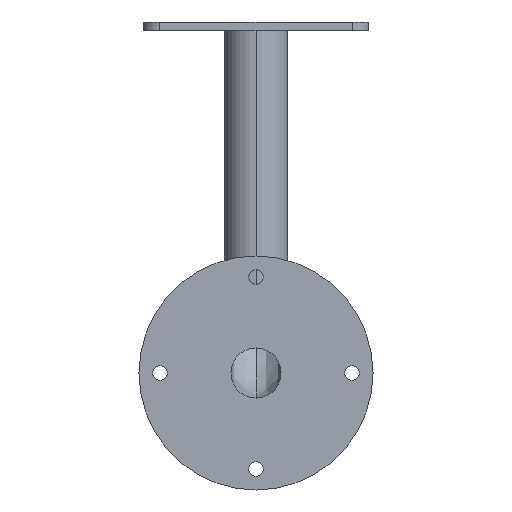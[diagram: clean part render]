
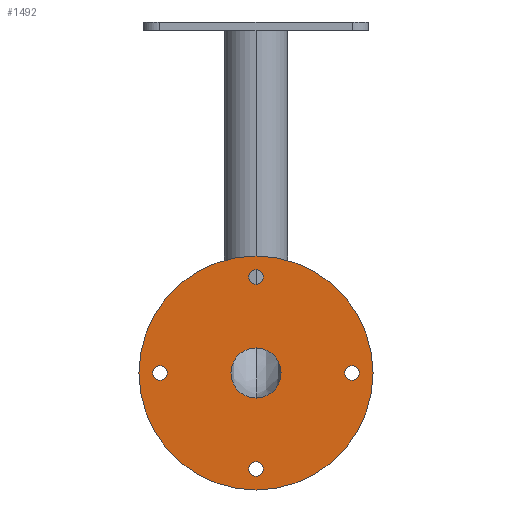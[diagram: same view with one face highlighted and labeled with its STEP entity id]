
A CAD part, front view. The second image highlights one B-rep face of the part: STEP entity #1492.
In plain terms, the highlighted planar face has unit normal (0, -1, 0).
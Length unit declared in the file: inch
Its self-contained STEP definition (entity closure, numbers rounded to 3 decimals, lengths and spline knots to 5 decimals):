
#11 = CIRCLE ( 'NONE', #1264, 0.219 ) ;
#42 = EDGE_LOOP ( 'NONE', ( #1465, #480 ) ) ;
#50 = EDGE_LOOP ( 'NONE', ( #288, #169 ) ) ;
#78 = CARTESIAN_POINT ( 'NONE',  ( -2.875, 0., 0.219 ) ) ;
#90 = EDGE_CURVE ( 'NONE', #565, #473, #1238, .T. ) ;
#97 = AXIS2_PLACEMENT_3D ( 'NONE', #926, #685, #819 ) ;
#103 = CARTESIAN_POINT ( 'NONE',  ( 2.875, 0., 0.219 ) ) ;
#110 = VERTEX_POINT ( 'NONE', #1020 ) ;
#117 = AXIS2_PLACEMENT_3D ( 'NONE', #1487, #120, #981 ) ;
#120 = DIRECTION ( 'NONE',  ( 0., 1., 0. ) ) ;
#160 = FACE_OUTER_BOUND ( 'NONE', #50, .T. ) ;
#164 = EDGE_LOOP ( 'NONE', ( #1598, #1241 ) ) ;
#169 = ORIENTED_EDGE ( 'NONE', *, *, #578, .F. ) ;
#198 = VERTEX_POINT ( 'NONE', #1280 ) ;
#234 = EDGE_CURVE ( 'NONE', #473, #565, #1033, .T. ) ;
#246 = DIRECTION ( 'NONE',  ( 0., 1., 0. ) ) ;
#256 = CIRCLE ( 'NONE', #1406, 0.219 ) ;
#259 = DIRECTION ( 'NONE',  ( 0., -1., 0. ) ) ;
#286 = DIRECTION ( 'NONE',  ( 0., 0., 1. ) ) ;
#288 = ORIENTED_EDGE ( 'NONE', *, *, #1610, .F. ) ;
#297 = AXIS2_PLACEMENT_3D ( 'NONE', #1489, #860, #871 ) ;
#306 = EDGE_CURVE ( 'NONE', #198, #543, #256, .T. ) ;
#317 = CARTESIAN_POINT ( 'NONE',  ( 2.875, 0., 0. ) ) ;
#318 = ORIENTED_EDGE ( 'NONE', *, *, #326, .F. ) ;
#326 = EDGE_CURVE ( 'NONE', #769, #1177, #1327, .T. ) ;
#368 = CIRCLE ( 'NONE', #750, 0.219 ) ;
#370 = CARTESIAN_POINT ( 'NONE',  ( -2.875, 0., 0. ) ) ;
#384 = CIRCLE ( 'NONE', #297, 0.219 ) ;
#385 = AXIS2_PLACEMENT_3D ( 'NONE', #1163, #1294, #1157 ) ;
#395 = EDGE_LOOP ( 'NONE', ( #1201, #318 ) ) ;
#404 = ORIENTED_EDGE ( 'NONE', *, *, #234, .F. ) ;
#449 = CARTESIAN_POINT ( 'NONE',  ( 0., 0., 0.75 ) ) ;
#457 = CARTESIAN_POINT ( 'NONE',  ( 0., 0., 2.875 ) ) ;
#465 = CIRCLE ( 'NONE', #616, 3.5 ) ;
#466 = CARTESIAN_POINT ( 'NONE',  ( 0., 0., -2.656 ) ) ;
#473 = VERTEX_POINT ( 'NONE', #78 ) ;
#474 = VERTEX_POINT ( 'NONE', #1586 ) ;
#480 = ORIENTED_EDGE ( 'NONE', *, *, #806, .F. ) ;
#487 = CARTESIAN_POINT ( 'NONE',  ( -2.875, 0., -0.219 ) ) ;
#506 = FACE_BOUND ( 'NONE', #814, .T. ) ;
#507 = EDGE_CURVE ( 'NONE', #543, #198, #384, .T. ) ;
#543 = VERTEX_POINT ( 'NONE', #103 ) ;
#561 = DIRECTION ( 'NONE',  ( 0., -1., 0. ) ) ;
#565 = VERTEX_POINT ( 'NONE', #487 ) ;
#567 = DIRECTION ( 'NONE',  ( 0., 0., 1. ) ) ;
#576 = PLANE ( 'NONE',  #1197 ) ;
#578 = EDGE_CURVE ( 'NONE', #1131, #110, #799, .T. ) ;
#599 = DIRECTION ( 'NONE',  ( 0., 1., 0. ) ) ;
#604 = CARTESIAN_POINT ( 'NONE',  ( 0., 0., 0. ) ) ;
#609 = DIRECTION ( 'NONE',  ( 0., 0., 1. ) ) ;
#616 = AXIS2_PLACEMENT_3D ( 'NONE', #604, #246, #609 ) ;
#643 = ORIENTED_EDGE ( 'NONE', *, *, #90, .F. ) ;
#651 = DIRECTION ( 'NONE',  ( 0., 0., 1. ) ) ;
#685 = DIRECTION ( 'NONE',  ( 0., -1., 0. ) ) ;
#687 = AXIS2_PLACEMENT_3D ( 'NONE', #930, #922, #286 ) ;
#699 = VERTEX_POINT ( 'NONE', #1007 ) ;
#750 = AXIS2_PLACEMENT_3D ( 'NONE', #457, #561, #1435 ) ;
#769 = VERTEX_POINT ( 'NONE', #1045 ) ;
#785 = EDGE_CURVE ( 'NONE', #1023, #1339, #1128, .T. ) ;
#796 = CIRCLE ( 'NONE', #847, 0.219 ) ;
#799 = CIRCLE ( 'NONE', #117, 3.5 ) ;
#806 = EDGE_CURVE ( 'NONE', #699, #474, #796, .T. ) ;
#814 = EDGE_LOOP ( 'NONE', ( #404, #643 ) ) ;
#819 = DIRECTION ( 'NONE',  ( 0., 0., 1. ) ) ;
#842 = AXIS2_PLACEMENT_3D ( 'NONE', #370, #259, #1260 ) ;
#847 = AXIS2_PLACEMENT_3D ( 'NONE', #1285, #1156, #651 ) ;
#857 = CARTESIAN_POINT ( 'NONE',  ( 0., 0., -3.5 ) ) ;
#860 = DIRECTION ( 'NONE',  ( 0., -1., 0. ) ) ;
#871 = DIRECTION ( 'NONE',  ( 0., 0., 1. ) ) ;
#921 = EDGE_CURVE ( 'NONE', #1339, #1023, #1223, .T. ) ;
#922 = DIRECTION ( 'NONE',  ( 0., -1., 0. ) ) ;
#926 = CARTESIAN_POINT ( 'NONE',  ( 0., 0., -2.875 ) ) ;
#930 = CARTESIAN_POINT ( 'NONE',  ( 0., 0., 0. ) ) ;
#933 = DIRECTION ( 'NONE',  ( 0., -1., 0. ) ) ;
#956 = DIRECTION ( 'NONE',  ( 0., -1., 0. ) ) ;
#981 = DIRECTION ( 'NONE',  ( 0., 0., 1. ) ) ;
#1001 = AXIS2_PLACEMENT_3D ( 'NONE', #1441, #956, #567 ) ;
#1007 = CARTESIAN_POINT ( 'NONE',  ( 0., 0., 2.656 ) ) ;
#1020 = CARTESIAN_POINT ( 'NONE',  ( 0., 0., 3.5 ) ) ;
#1023 = VERTEX_POINT ( 'NONE', #449 ) ;
#1029 = EDGE_LOOP ( 'NONE', ( #1386, #1119 ) ) ;
#1033 = CIRCLE ( 'NONE', #385, 0.219 ) ;
#1037 = CARTESIAN_POINT ( 'NONE',  ( 0., 0., -2.875 ) ) ;
#1045 = CARTESIAN_POINT ( 'NONE',  ( 0., 0., -3.094 ) ) ;
#1119 = ORIENTED_EDGE ( 'NONE', *, *, #921, .F. ) ;
#1128 = CIRCLE ( 'NONE', #687, 0.75 ) ;
#1131 = VERTEX_POINT ( 'NONE', #857 ) ;
#1132 = FACE_BOUND ( 'NONE', #395, .T. ) ;
#1156 = DIRECTION ( 'NONE',  ( 0., -1., 0. ) ) ;
#1157 = DIRECTION ( 'NONE',  ( 0., 0., 1. ) ) ;
#1163 = CARTESIAN_POINT ( 'NONE',  ( -2.875, 0., 0. ) ) ;
#1170 = FACE_BOUND ( 'NONE', #164, .T. ) ;
#1177 = VERTEX_POINT ( 'NONE', #466 ) ;
#1183 = DIRECTION ( 'NONE',  ( 0., 0., 1. ) ) ;
#1188 = CARTESIAN_POINT ( 'NONE',  ( 0., 0., -0.75 ) ) ;
#1197 = AXIS2_PLACEMENT_3D ( 'NONE', #1228, #599, #1336 ) ;
#1201 = ORIENTED_EDGE ( 'NONE', *, *, #1278, .F. ) ;
#1223 = CIRCLE ( 'NONE', #1001, 0.75 ) ;
#1228 = CARTESIAN_POINT ( 'NONE',  ( 0., 0., 0. ) ) ;
#1238 = CIRCLE ( 'NONE', #842, 0.219 ) ;
#1241 = ORIENTED_EDGE ( 'NONE', *, *, #306, .F. ) ;
#1254 = FACE_BOUND ( 'NONE', #1029, .T. ) ;
#1260 = DIRECTION ( 'NONE',  ( 0., 0., 1. ) ) ;
#1264 = AXIS2_PLACEMENT_3D ( 'NONE', #1037, #1521, #1298 ) ;
#1278 = EDGE_CURVE ( 'NONE', #1177, #769, #11, .T. ) ;
#1280 = CARTESIAN_POINT ( 'NONE',  ( 2.875, 0., -0.219 ) ) ;
#1285 = CARTESIAN_POINT ( 'NONE',  ( 0., 0., 2.875 ) ) ;
#1294 = DIRECTION ( 'NONE',  ( 0., -1., 0. ) ) ;
#1298 = DIRECTION ( 'NONE',  ( 0., 0., 1. ) ) ;
#1327 = CIRCLE ( 'NONE', #97, 0.219 ) ;
#1336 = DIRECTION ( 'NONE',  ( 0., 0., 1. ) ) ;
#1339 = VERTEX_POINT ( 'NONE', #1188 ) ;
#1359 = EDGE_CURVE ( 'NONE', #474, #699, #368, .T. ) ;
#1386 = ORIENTED_EDGE ( 'NONE', *, *, #785, .F. ) ;
#1406 = AXIS2_PLACEMENT_3D ( 'NONE', #317, #933, #1183 ) ;
#1435 = DIRECTION ( 'NONE',  ( 0., 0., 1. ) ) ;
#1441 = CARTESIAN_POINT ( 'NONE',  ( 0., 0., 0. ) ) ;
#1465 = ORIENTED_EDGE ( 'NONE', *, *, #1359, .F. ) ;
#1487 = CARTESIAN_POINT ( 'NONE',  ( 0., 0., 0. ) ) ;
#1489 = CARTESIAN_POINT ( 'NONE',  ( 2.875, 0., 0. ) ) ;
#1492 = ADVANCED_FACE ( 'NONE', ( #160, #1254, #1132, #1170, #1508, #506 ), #576, .F. ) ;
#1508 = FACE_BOUND ( 'NONE', #42, .T. ) ;
#1521 = DIRECTION ( 'NONE',  ( 0., -1., 0. ) ) ;
#1586 = CARTESIAN_POINT ( 'NONE',  ( 0., 0., 3.094 ) ) ;
#1598 = ORIENTED_EDGE ( 'NONE', *, *, #507, .F. ) ;
#1610 = EDGE_CURVE ( 'NONE', #110, #1131, #465, .T. ) ;
